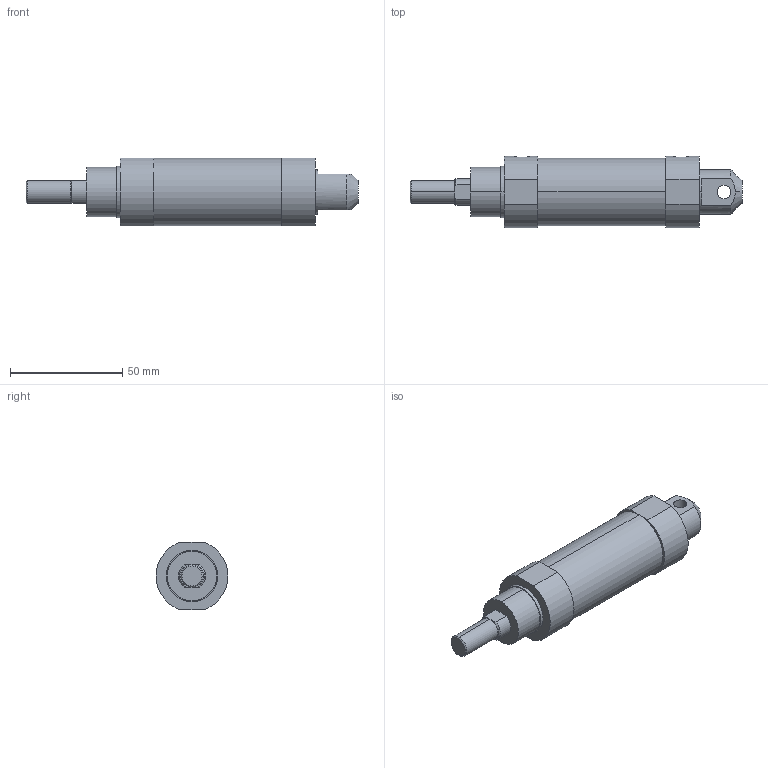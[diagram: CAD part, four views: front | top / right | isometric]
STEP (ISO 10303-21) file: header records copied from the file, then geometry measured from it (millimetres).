
FILE_DESCRIPTION (( 'STEP AP203' ), '1' );
FILE_NAME ('J#2-25-25-C.STEP', '2016-03-08T07:09:02', ( '' ), ( '' ), 'SwSTEP 2.0', 'SolidWorks 2014', '' );
FILE_SCHEMA (( 'CONFIG_CONTROL_DESIGN' ));
Length unit declared in the file: millimetre
Products named in the file (1): J#2-25-25-C
Bounding box: 148 x 32 x 30 mm (x, y, z)
Volume: 74679.6 mm3; surface area: 14072.4 mm2
Topology: 1 solids, 1 shells, 52 faces, 118 edges, 74 vertices
Faces by surface type: plane 24, cylinder 22, cone 6
Entity records: 1701 total; most frequent: CARTESIAN_POINT 429, DIRECTION 262, ORIENTED_EDGE 236, EDGE_CURVE 118, AXIS2_PLACEMENT_3D 103, VERTEX_POINT 74, EDGE_LOOP 60, VECTOR 56
